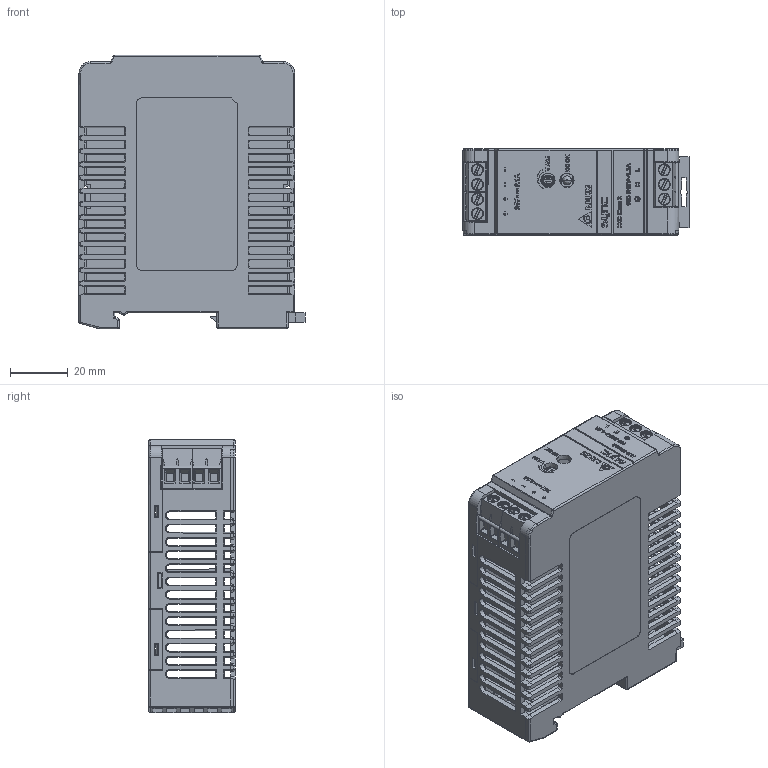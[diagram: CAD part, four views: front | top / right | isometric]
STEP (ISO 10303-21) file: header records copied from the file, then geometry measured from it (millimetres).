
FILE_DESCRIPTION((''),'2;1');
FILE_NAME('PD00-DRS-24V50W1NZ_ASM','2018-09-19T',('pattrapol.seng'),(''),'PRO/ENGINEER BY PARAMETRIC TECHNOLOGY CORPORATION, 2010180','PRO/ENGINEER BY PARAMETRIC TECHNOLOGY CORPORATION, 2010180','');
FILE_SCHEMA(('CONFIG_CONTROL_DESIGN','SHAPE_APPEARANCE_LAYERS_GROUPS'));
Products named in the file (17): 2958080001_MAINBOARD; 2969805301_ADC-053; 307590717W; 307590727W_A1; 307590727W_ASM; 307655086G; 307655076G; ASSY_ADC-053_ASM; EE_LED350; EE_VR550; 307022146G; 307022136G; ASSY_PWB_DRS-24V50W1NZ_ASM; 330233640102; 3471801700_CLIP-BOM; 3302343100; PD00-DRS-24V50W1NZ_ASM
Assembly tree (17 placements, depth 5):
  PD00-DRS-24V50W1NZ_ASM
    ASSY_PWB_DRS-24V50W1NZ_ASM
      2958080001_MAINBOARD
      ASSY_ADC-053_ASM
        2969805301_ADC-053
        307590717W
        307590727W_ASM
          307590727W_A1  x2
        307655086G
        307655076G
      EE_LED350
      EE_VR550
      307022146G
      307022136G
    330233640102
    3471801700_CLIP-BOM
    3302343100
Bounding box: 78.6 x 30 x 95.03 mm (x, y, z)
Volume: 49461.8 mm3; surface area: 70036.5 mm2
Topology: 14 solids, 17 shells, 6128 faces, 14771 edges, 8815 vertices
Faces by surface type: plane 2578, cylinder 1865, sphere 599, torus 486, extrusion 289, bspline 182, cone 129
Entity records: 195479 total; most frequent: CARTESIAN_POINT 42134, ORIENTED_EDGE 27776, DIRECTION 27336, EDGE_CURVE 13888, AXIS2_PLACEMENT_3D 9171, VECTOR 8994, LINE 8707, VERTEX_POINT 8314
